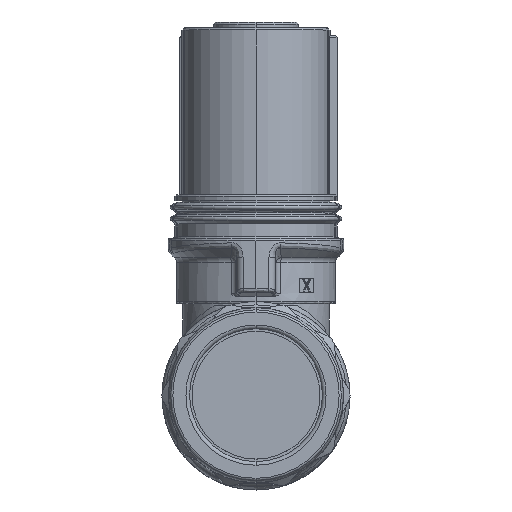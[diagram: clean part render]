
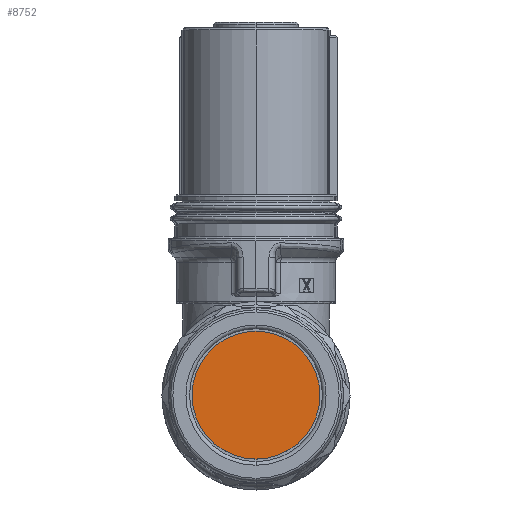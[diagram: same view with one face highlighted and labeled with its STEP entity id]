
A CAD part, top view. The second image highlights one B-rep face of the part: STEP entity #8752.
In plain terms, the highlighted planar face has unit normal (0, 0, 1).
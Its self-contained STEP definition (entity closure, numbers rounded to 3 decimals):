
#197 = DIRECTION ( 'NONE',  ( 0., 0., -1. ) ) ;
#482 = DIRECTION ( 'NONE',  ( -1., 0., 0. ) ) ;
#5975 = ORIENTED_EDGE ( 'NONE', *, *, #15883, .F. ) ;
#6232 = PLANE ( 'NONE',  #37410 ) ;
#8752 = ADVANCED_FACE ( 'NONE', ( #41920 ), #6232, .T. ) ;
#9109 = ORIENTED_EDGE ( 'NONE', *, *, #29708, .F. ) ;
#10243 = AXIS2_PLACEMENT_3D ( 'NONE', #34248, #197, #482 ) ;
#11777 = VERTEX_POINT ( 'NONE', #25845 ) ;
#14664 = DIRECTION ( 'NONE',  ( 0., 0., -1. ) ) ;
#15883 = EDGE_CURVE ( 'NONE', #11777, #42615, #41862, .T. ) ;
#16264 = DIRECTION ( 'NONE',  ( 1., 0., 0. ) ) ;
#20950 = CIRCLE ( 'NONE', #10243, 8.8 ) ;
#21733 = CARTESIAN_POINT ( 'NONE',  ( 8.8, -13.778, 74.8 ) ) ;
#25845 = CARTESIAN_POINT ( 'NONE',  ( -8.8, -13.778, 74.8 ) ) ;
#28476 = EDGE_LOOP ( 'NONE', ( #5975, #9109 ) ) ;
#28616 = DIRECTION ( 'NONE',  ( -1., 0., 0. ) ) ;
#29621 = CARTESIAN_POINT ( 'NONE',  ( 0., -13.778, 74.8 ) ) ;
#29708 = EDGE_CURVE ( 'NONE', #42615, #11777, #20950, .T. ) ;
#30269 = AXIS2_PLACEMENT_3D ( 'NONE', #34847, #14664, #28616 ) ;
#34248 = CARTESIAN_POINT ( 'NONE',  ( 0., -13.778, 74.8 ) ) ;
#34847 = CARTESIAN_POINT ( 'NONE',  ( 0., -13.778, 74.8 ) ) ;
#36446 = DIRECTION ( 'NONE',  ( 0., 0., 1. ) ) ;
#37410 = AXIS2_PLACEMENT_3D ( 'NONE', #29621, #36446, #16264 ) ;
#41862 = CIRCLE ( 'NONE', #30269, 8.8 ) ;
#41920 = FACE_OUTER_BOUND ( 'NONE', #28476, .T. ) ;
#42615 = VERTEX_POINT ( 'NONE', #21733 ) ;
